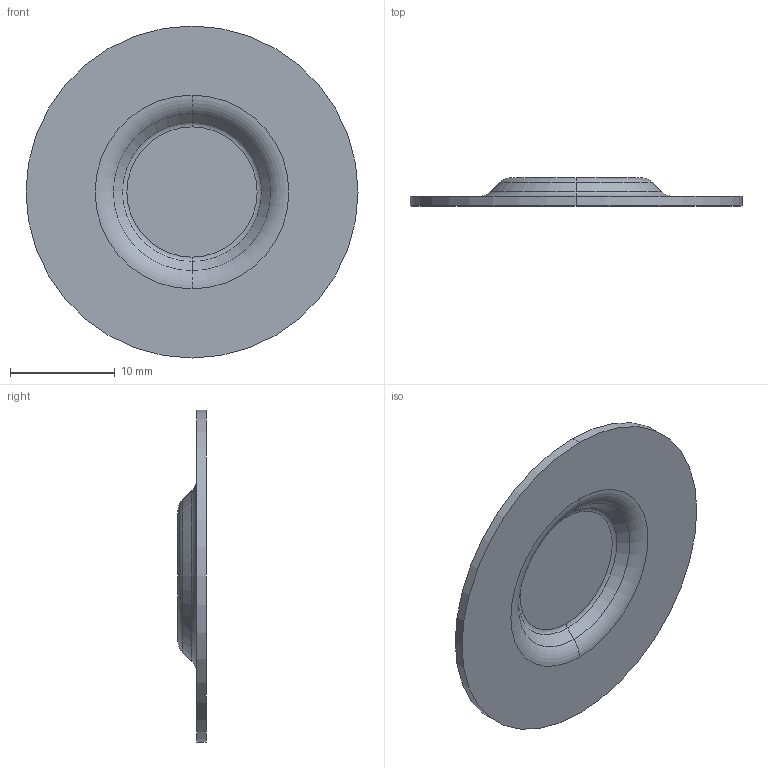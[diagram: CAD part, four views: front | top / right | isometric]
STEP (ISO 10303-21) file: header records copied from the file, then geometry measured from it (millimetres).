
FILE_DESCRIPTION (( 'STEP AP214' ), '1' );
FILE_NAME ('SO 1629354-10.STEP', '2024-09-16T17:20:10', ( '' ), ( '' ), 'SwSTEP 2.0', 'SolidWorks 2024', '' );
FILE_SCHEMA (( 'AUTOMOTIVE_DESIGN' ));
Length unit declared in the file: inch
Products named in the file (1): SO 1629354-10
Bounding box: 31.75 x 2.69 x 31.75 mm (x, y, z)
Volume: 750.2 mm3; surface area: 1732 mm2
Topology: 1 solids, 1 shells, 18 faces, 34 edges, 20 vertices
Faces by surface type: torus 8, cone 4, plane 4, cylinder 2
Entity records: 489 total; most frequent: DIRECTION 100, CARTESIAN_POINT 73, ORIENTED_EDGE 68, AXIS2_PLACEMENT_3D 47, EDGE_CURVE 34, CIRCLE 28, EDGE_LOOP 20, VERTEX_POINT 20
